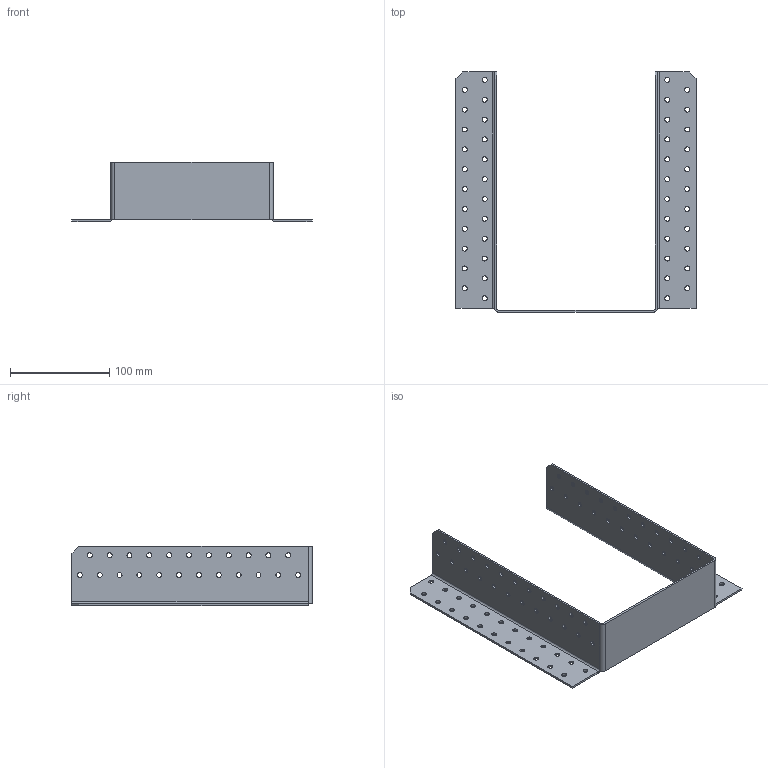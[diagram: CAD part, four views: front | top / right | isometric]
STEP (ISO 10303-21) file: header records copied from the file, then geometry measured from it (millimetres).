
FILE_DESCRIPTION (( 'STEP AP203' ), '1' );
FILE_NAME ('405182.STEP', '2021-04-17T17:13:13', ( '' ), ( '' ), 'SwSTEP 2.0', 'SolidWorks 2013', '' );
FILE_SCHEMA (( 'CONFIG_CONTROL_DESIGN' ));
Length unit declared in the file: millimetre
Products named in the file (1): 405182
Bounding box: 242 x 242 x 60 mm (x, y, z)
Volume: 108402.6 mm3; surface area: 114376.9 mm2
Topology: 1 solids, 1 shells, 228 faces, 648 edges, 422 vertices
Faces by surface type: cylinder 192, plane 36
Entity records: 8043 total; most frequent: DIRECTION 1492, CARTESIAN_POINT 1299, ORIENTED_EDGE 1296, EDGE_CURVE 648, AXIS2_PLACEMENT_3D 615, VERTEX_POINT 422, EDGE_LOOP 412, CIRCLE 386
